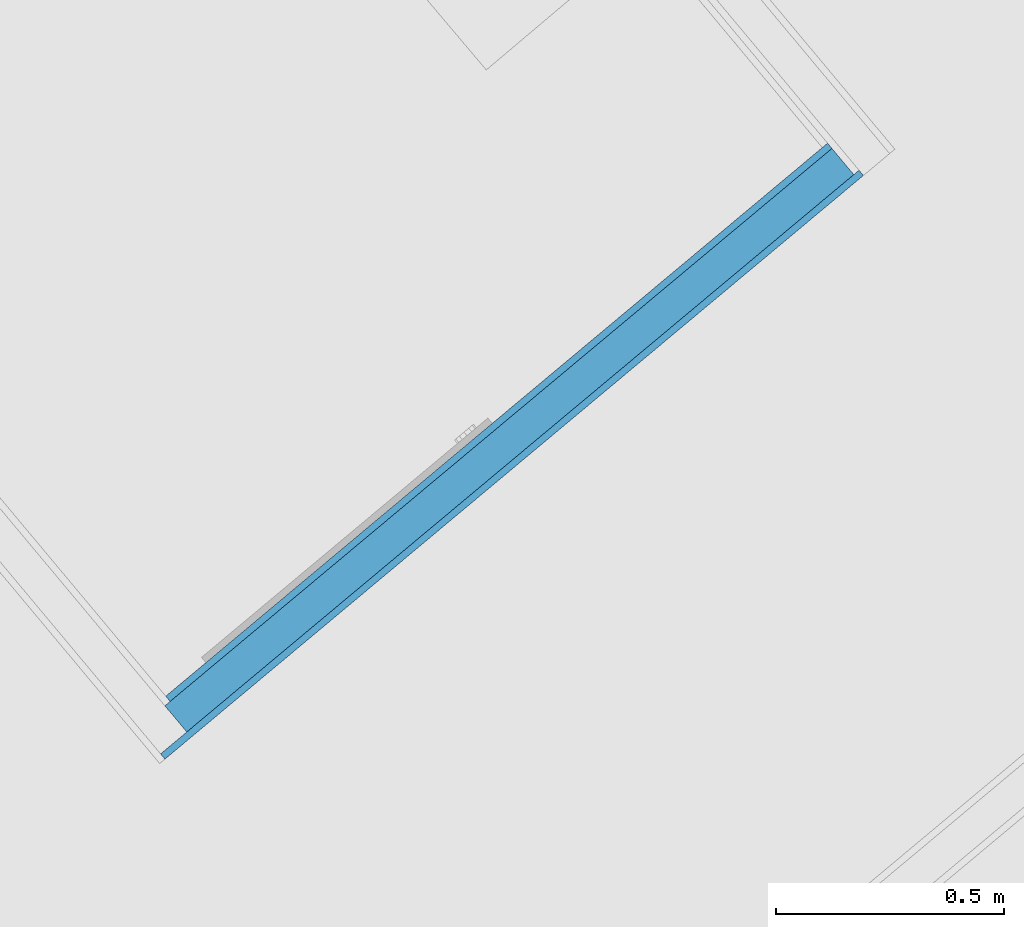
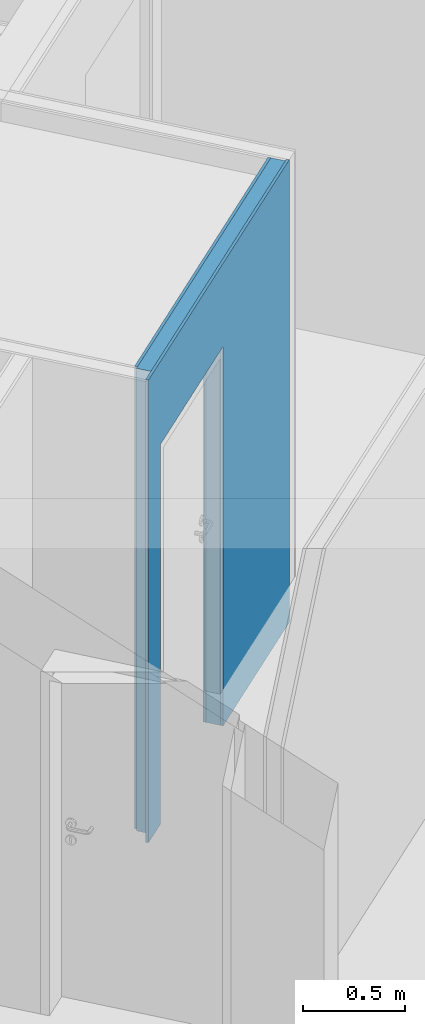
# One storey, part 5 of 61: 3 building element parts, 1 opening, 1 element without a shape of its own.
"""IFC4 building model written with IfcOpenShell, lengths in metres."""

from ifc_helpers import new_model, entity, si_unit, converted_unit, derived_unit, direction, frame, origin_with_axes, place, context, subcontext, project, spatial, polygons, material, type_object, element, aggregate, save


model = new_model("IFC4")

# Units and contexts
model_context = context("Model", 3, precision=1e-05, world=origin_with_axes(), true_north=direction((0.0, 1.0)))
body_context = subcontext(model_context, "Body", "Model", "MODEL_VIEW")
ifc_project = project(units=[si_unit("LENGTHUNIT", "METRE"), si_unit("AREAUNIT", "SQUARE_METRE"), si_unit("VOLUMEUNIT", "CUBIC_METRE"), converted_unit("PLANEANGLEUNIT", "DEGREE", entity("IfcPlaneAngleMeasure", 0.0174532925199), si_unit("PLANEANGLEUNIT", "RADIAN"), dimensions=[0, 0, 0, 0, 0, 0, 0]), converted_unit("TIMEUNIT", "Year", entity("IfcTimeMeasure", 31556926.0), si_unit("TIMEUNIT", "SECOND"), dimensions=[0, 0, 1, 0, 0, 0, 0]), si_unit("MASSUNIT", "GRAM", prefix="KILO"), si_unit("THERMODYNAMICTEMPERATUREUNIT", "DEGREE_CELSIUS"), si_unit("LUMINOUSINTENSITYUNIT", "LUMEN"), si_unit("ENERGYUNIT", "JOULE", prefix="MEGA"), derived_unit("THERMALCONDUCTANCEUNIT", [(si_unit("POWERUNIT", "WATT"), 1), (si_unit("LENGTHUNIT", "METRE"), -1), (si_unit("THERMODYNAMICTEMPERATUREUNIT", "KELVIN"), -1)]), derived_unit("SPECIFICHEATCAPACITYUNIT", [(si_unit("ENERGYUNIT", "JOULE"), 1), (si_unit("MASSUNIT", "GRAM", prefix="KILO"), -1), (si_unit("THERMODYNAMICTEMPERATUREUNIT", "KELVIN"), -1)]), derived_unit("MASSDENSITYUNIT", [(si_unit("MASSUNIT", "GRAM", prefix="KILO"), 1), (si_unit("VOLUMEUNIT", "CUBIC_METRE"), -1)])], contexts=[model_context])

# Site, building, storey
site_placement = place(None, frame((-0.00153261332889, -0.00661245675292, 0.0), z_axis=(0.0, 0.0, 1.0), x_axis=(1.0, 0.0, 0.0)))
site = spatial("IfcSite", under=ifc_project, at=site_placement, Name="Gelände", CompositionType="ELEMENT")
building_placement = place(site_placement, origin_with_axes())
building = spatial("IfcBuilding", under=site, at=building_placement, Name="Gebäude", CompositionType="ELEMENT")
storey_placement = place(building_placement, frame((0.0, 0.0, 5.7), z_axis=(0.0, 0.0, 1.0), x_axis=(1.0, 0.0, 0.0)))
storey = spatial("IfcBuildingStorey", under=building, at=storey_placement, Name="DG1", CompositionType="ELEMENT", Elevation=5.7)

# Wall, opening, building element parts
wall_type = type_object("IfcWallType", Name="IW LB 01 Leichtbautrennwand einfach 10,5 cm 105", PredefinedType="NOTDEFINED")
wall_placement = place(storey_placement, frame((1.00454728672, 18.4277687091, 0.0), z_axis=(0.0, 0.0, 1.0), x_axis=(0.767365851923, 0.641209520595, 0.0)))
wall = element("IfcWall", 1, at=wall_placement, inside=storey, type_object=wall_type, Name="Wand-012", PredefinedType="NOTDEFINED")
opening_placement = place(wall_placement, frame((0.630112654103, 0.0, 0.22), z_axis=(0.0, 0.0, 1.0), x_axis=(1.0, 0.0, 0.0)))
element("IfcOpeningElement", 2, at=opening_placement, cuts=wall, Name="Tür-016", context=body_context, identifier="Reference", shape_type="Tessellation", body=[
    polygons([(-0.445, -0.97786977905, 2.045), (-0.445, -0.97786977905, -0.22), (0.445, -0.97786977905, -0.22), (0.445, -0.97786977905, 2.045), (-0.445, 1.08286977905, 2.045), (-0.445, 1.08286977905, -0.22), (0.445, 1.08286977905, -0.22), (0.445, 1.08286977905, 2.045)], [[[1, 2, 3, 4]], [[5, 6, 2, 1]], [[6, 7, 3, 2]], [[7, 8, 4, 3]], [[8, 5, 1, 4]], [[7, 6, 5, 8]]], closed=True),
])
ifc_material_1 = material(Name="Gipskarton")
building_element_part_1_placement = place(wall_placement, origin_with_axes())
building_element_part_1 = element("IfcBuildingElementPart", 3, at=building_element_part_1_placement, material=ifc_material_1, Name="Gipskarton", PredefinedType="NOTDEFINED", context=body_context, shape_type="Tessellation", body=[
    polygons([(0.185112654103, 0.09, 0.22), (0.185112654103, 0.09, 2.265), (1.0751126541, 0.09, 2.265), (1.0751126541, 0.09, 0.22), (1.07511264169, 0.09, 0.0), (2.00034401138, 0.09, 0.0), (2.00034401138, 0.09, 2.76), (0.104999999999, 0.09, 2.76), (0.104999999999, 0.09, 0.0), (0.185112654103, 0.09, 0.0), (0.185112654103, 0.104999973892, 0.22), (0.185112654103, 0.105000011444, 2.265), (1.0751126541, 0.105000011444, 2.265), (1.0751126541, 0.105000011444, 0.22), (1.07511264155, 0.105000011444, 0.0), (2.00034517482, 0.105, 0.0), (2.00034517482, 0.105, 2.76), (0.104999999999, 0.105, 2.76), (0.104999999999, 0.105, 0.0), (0.185112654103, 0.104999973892, 0.0)], [[[1, 2, 3, 4, 5, 6, 7, 8, 9, 10]], [[2, 1, 11, 12]], [[3, 2, 12, 13]], [[4, 3, 13, 14]], [[4, 14, 15, 5]], [[15, 16, 6, 5]], [[16, 17, 7, 6]], [[17, 18, 8, 7]], [[19, 9, 8, 18]], [[10, 9, 19, 20]], [[11, 1, 10, 20]], [[12, 11, 20, 19, 18, 17, 16, 15, 14, 13]]], closed=True),
])
ifc_material_2 = material(Name="Mineralwolle weich")
building_element_part_2_placement = place(wall_placement, origin_with_axes())
building_element_part_2 = element("IfcBuildingElementPart", 4, at=building_element_part_2_placement, material=ifc_material_2, Name="Mineralwolle weich", PredefinedType="NOTDEFINED", context=body_context, shape_type="Tessellation", body=[
    polygons([(0.185112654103, 0.015, 0.22), (0.185112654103, 0.015, 2.265), (1.0751126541, 0.015, 2.265), (1.0751126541, 0.015, 0.22), (1.07511264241, 0.015, 0.0), (2.00033819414, 0.015, 0.0), (2.00033819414, 0.015, 2.76), (0.0899999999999, 0.015, 2.76), (0.0899999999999, 0.015, 0.0), (0.185112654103, 0.015, 0.0), (0.185112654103, 0.09, 0.22), (0.185112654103, 0.09, 2.265), (1.0751126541, 0.09, 2.265), (1.0751126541, 0.09, 0.22), (1.07511264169, 0.09, 0.0), (2.00034401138, 0.09, 0.0), (2.00034401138, 0.09, 2.76), (0.0899999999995, 0.09, 2.76), (0.0899999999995, 0.09, 0.0), (0.185112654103, 0.09, 0.0)], [[[1, 2, 3, 4, 5, 6, 7, 8, 9, 10]], [[2, 1, 11, 12]], [[3, 2, 12, 13]], [[4, 3, 13, 14]], [[4, 14, 15, 5]], [[15, 16, 6, 5]], [[16, 17, 7, 6]], [[17, 18, 8, 7]], [[19, 9, 8, 18]], [[10, 9, 19, 20]], [[11, 1, 10, 20]], [[12, 11, 20, 19, 18, 17, 16, 15, 14, 13]]], closed=True),
])
building_element_part_3_placement = place(wall_placement, origin_with_axes())
building_element_part_3 = element("IfcBuildingElementPart", 5, at=building_element_part_3_placement, material=ifc_material_1, Name="Gipskarton", PredefinedType="NOTDEFINED", context=body_context, shape_type="Tessellation", body=[
    polygons([(0.185112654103, 0.0, 0.22), (0.185112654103, 0.0, 2.265), (1.0751126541, 0.0, 2.265), (1.0751126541, 0.0, 0.22), (1.07511264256, 0.0, 0.0), (2.01533703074, 0.0, 0.0), (2.01533703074, 0.0, 2.76), (0.015, 0.0, 2.76), (0.015, 0.0, 0.0), (0.185112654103, 0.0, 0.0), (0.185112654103, 0.015, 0.22), (0.185112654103, 0.015, 2.265), (1.0751126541, 0.015, 2.265), (1.0751126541, 0.015, 0.22), (1.07511264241, 0.015, 0.0), (2.01533819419, 0.015, 0.0), (2.01533819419, 0.015, 2.76), (0.0149999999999, 0.015, 2.76), (0.0149999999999, 0.015, 0.0), (0.185112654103, 0.015, 0.0)], [[[1, 2, 3, 4, 5, 6, 7, 8, 9, 10]], [[2, 1, 11, 12]], [[3, 2, 12, 13]], [[4, 3, 13, 14]], [[4, 14, 15, 5]], [[15, 16, 6, 5]], [[16, 17, 7, 6]], [[17, 18, 8, 7]], [[19, 9, 8, 18]], [[10, 9, 19, 20]], [[11, 1, 10, 20]], [[12, 11, 20, 19, 18, 17, 16, 15, 14, 13]]], closed=True),
])
aggregate(wall, [building_element_part_1, building_element_part_2, building_element_part_3])

save(model, "model.ifc")
